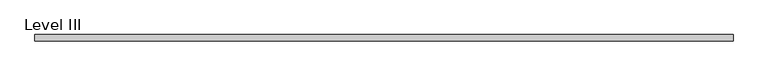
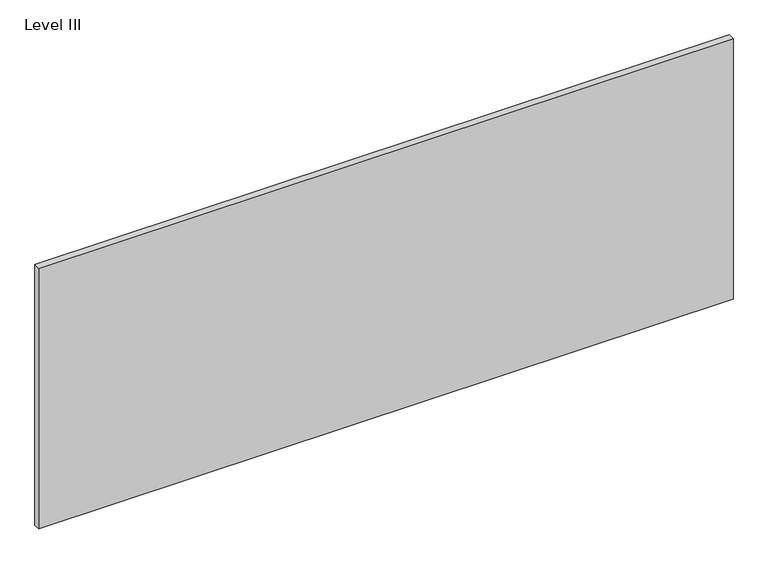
"""IFC4 building model written with IfcOpenShell, lengths in millimetres: proxy geometry, Panel-Fascia-Teknion-Altos-Landscape : Level III."""

from ifc_helpers import new_model, si_unit, frame, origin, place, context, project, spatial, polyline, outline, extrude, source, transform, mapped, element, save


def level_iii_45eca7cc(model_context):
    return source(origin(), model_context, "Body", "SweptSolid", [
        extrude(outline(polyline([(1012.8305563, -9.525), (-1012.8305562, -9.525), (-1012.8305562, 9.525), (1012.8305563, 9.525), (1012.8305563, -9.525)])), frame((0.0, 0.0, 3.175), z_axis=(0.0, 0.0, 1.0), x_axis=(1.0, 0.0, 0.0)), (0.0, 0.0, 1.0), 804.418),
    ])


if __name__ == "__main__":
    model = new_model("IFC4")
    model_context = context("Model", 3, world=origin())
    ifc_project = project(units=[si_unit("LENGTHUNIT", "METRE", prefix="MILLI")], contexts=[model_context])
    site = spatial("IfcSite", under=ifc_project)
    building = spatial("IfcBuilding", under=site)
    placement = place(None, origin())
    level_iii_shape = level_iii_45eca7cc(model_context)
    element("IfcBuildingElementProxy", 1, Name="Panel-Fascia-Teknion-Altos-Landscape : Level III", ObjectType="Panel-Fascia-Teknion-Altos-Landscape : Level III", at=placement, inside=building, context=model_context, shape_type="MappedRepresentation", body=[
        mapped(level_iii_shape, transform((0.0, 0.0, 0.0), x_axis=(1.0, 0.0, 0.0), y_axis=(0.0, 1.0, 0.0), z_axis=(0.0, 0.0, 1.0))),
    ])
    save(model, "model.ifc")
